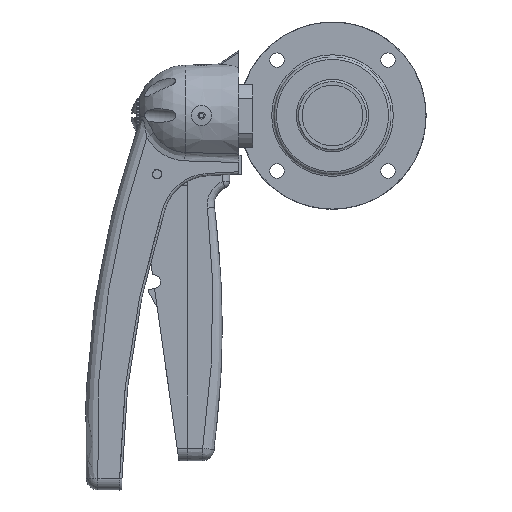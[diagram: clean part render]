
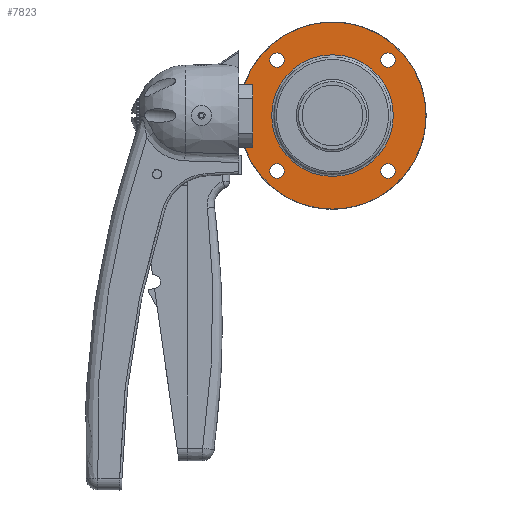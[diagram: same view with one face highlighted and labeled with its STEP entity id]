
A CAD part, top view. The second image highlights one B-rep face of the part: STEP entity #7823.
In plain terms, the highlighted planar face has unit normal (0, 0, 1) as drawn and (1, 0, 0) by its records, which use the part's own axes.
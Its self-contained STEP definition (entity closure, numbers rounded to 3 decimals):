
#1967=FACE_BOUND('',#2839,.T.);
#1968=FACE_BOUND('',#2840,.T.);
#1969=FACE_BOUND('',#2841,.T.);
#1970=FACE_BOUND('',#2842,.T.);
#1971=FACE_BOUND('',#2843,.T.);
#2385=FACE_OUTER_BOUND('',#2838,.T.);
#2838=EDGE_LOOP('',(#7165,#7166));
#2839=EDGE_LOOP('',(#7167));
#2840=EDGE_LOOP('',(#7168));
#2841=EDGE_LOOP('',(#7169));
#2842=EDGE_LOOP('',(#7170));
#2843=EDGE_LOOP('',(#7171,#7172));
#3123=CIRCLE('',#8549,40.);
#3124=CIRCLE('',#8550,40.);
#3127=CIRCLE('',#8555,3.1);
#3128=CIRCLE('',#8557,3.1);
#3129=CIRCLE('',#8559,3.1);
#3130=CIRCLE('',#8561,3.1);
#3131=CIRCLE('',#8563,26.);
#3132=CIRCLE('',#8564,26.);
#3845=VERTEX_POINT('',#22423);
#3846=VERTEX_POINT('',#22424);
#3849=VERTEX_POINT('',#22434);
#3850=VERTEX_POINT('',#22438);
#3851=VERTEX_POINT('',#22442);
#3852=VERTEX_POINT('',#22446);
#3853=VERTEX_POINT('',#22450);
#3854=VERTEX_POINT('',#22451);
#4951=EDGE_CURVE('',#3845,#3846,#3123,.T.);
#4952=EDGE_CURVE('',#3846,#3845,#3124,.T.);
#4957=EDGE_CURVE('',#3849,#3849,#3127,.T.);
#4959=EDGE_CURVE('',#3850,#3850,#3128,.T.);
#4961=EDGE_CURVE('',#3851,#3851,#3129,.T.);
#4963=EDGE_CURVE('',#3852,#3852,#3130,.T.);
#4964=EDGE_CURVE('',#3853,#3854,#3131,.T.);
#4965=EDGE_CURVE('',#3854,#3853,#3132,.T.);
#7165=ORIENTED_EDGE('',*,*,#4951,.T.);
#7166=ORIENTED_EDGE('',*,*,#4952,.T.);
#7167=ORIENTED_EDGE('',*,*,#4957,.T.);
#7168=ORIENTED_EDGE('',*,*,#4959,.T.);
#7169=ORIENTED_EDGE('',*,*,#4961,.T.);
#7170=ORIENTED_EDGE('',*,*,#4963,.T.);
#7171=ORIENTED_EDGE('',*,*,#4964,.F.);
#7172=ORIENTED_EDGE('',*,*,#4965,.F.);
#7409=PLANE('',#8562);
#7823=ADVANCED_FACE('',(#2385,#1967,#1968,#1969,#1970,#1971),#7409,.T.);
#8549=AXIS2_PLACEMENT_3D('',#22425,#10388,#10389);
#8550=AXIS2_PLACEMENT_3D('',#22426,#10390,#10391);
#8555=AXIS2_PLACEMENT_3D('',#22436,#10402,#10403);
#8557=AXIS2_PLACEMENT_3D('',#22440,#10407,#10408);
#8559=AXIS2_PLACEMENT_3D('',#22444,#10412,#10413);
#8561=AXIS2_PLACEMENT_3D('',#22448,#10417,#10418);
#8562=AXIS2_PLACEMENT_3D('',#22449,#10419,#10420);
#8563=AXIS2_PLACEMENT_3D('',#22452,#10421,#10422);
#8564=AXIS2_PLACEMENT_3D('',#22453,#10423,#10424);
#10388=DIRECTION('center_axis',(1.,0.,0.));
#10389=DIRECTION('ref_axis',(0.,0.,-1.));
#10390=DIRECTION('center_axis',(1.,0.,0.));
#10391=DIRECTION('ref_axis',(0.,0.,-1.));
#10402=DIRECTION('center_axis',(-1.,0.,0.));
#10403=DIRECTION('ref_axis',(0.,0.,1.));
#10407=DIRECTION('center_axis',(-1.,0.,0.));
#10408=DIRECTION('ref_axis',(0.,0.,1.));
#10412=DIRECTION('center_axis',(-1.,0.,0.));
#10413=DIRECTION('ref_axis',(0.,0.,1.));
#10417=DIRECTION('center_axis',(-1.,0.,0.));
#10418=DIRECTION('ref_axis',(0.,0.,1.));
#10419=DIRECTION('center_axis',(1.,0.,0.));
#10420=DIRECTION('ref_axis',(0.,0.,-1.));
#10421=DIRECTION('center_axis',(1.,0.,0.));
#10422=DIRECTION('ref_axis',(0.,0.,-1.));
#10423=DIRECTION('center_axis',(1.,0.,0.));
#10424=DIRECTION('ref_axis',(0.,0.,-1.));
#22423=CARTESIAN_POINT('',(10.,40.,0.));
#22424=CARTESIAN_POINT('',(10.,-40.,0.));
#22425=CARTESIAN_POINT('Origin',(10.,0.,0.));
#22426=CARTESIAN_POINT('Origin',(10.,0.,0.));
#22434=CARTESIAN_POINT('',(10.,-23.688,20.588));
#22436=CARTESIAN_POINT('Origin',(10.,-23.688,23.688));
#22438=CARTESIAN_POINT('',(10.,23.688,-26.788));
#22440=CARTESIAN_POINT('Origin',(10.,23.688,-23.688));
#22442=CARTESIAN_POINT('',(10.,-23.688,-26.788));
#22444=CARTESIAN_POINT('Origin',(10.,-23.688,-23.688));
#22446=CARTESIAN_POINT('',(10.,23.688,20.588));
#22448=CARTESIAN_POINT('Origin',(10.,23.688,23.688));
#22449=CARTESIAN_POINT('Origin',(10.,26.,0.));
#22450=CARTESIAN_POINT('',(10.,26.,0.));
#22451=CARTESIAN_POINT('',(10.,0.,26.));
#22452=CARTESIAN_POINT('Origin',(10.,0.,0.));
#22453=CARTESIAN_POINT('Origin',(10.,0.,0.));
